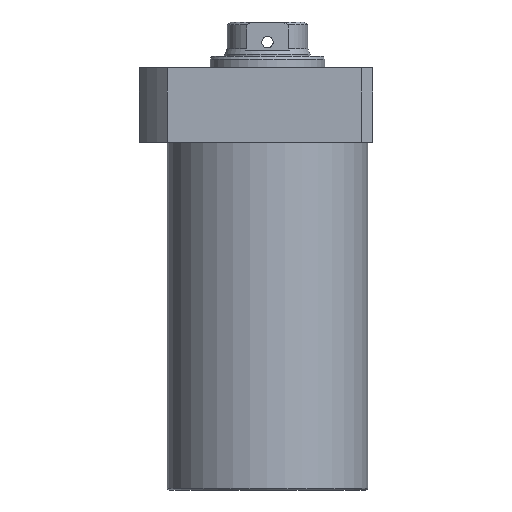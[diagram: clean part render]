
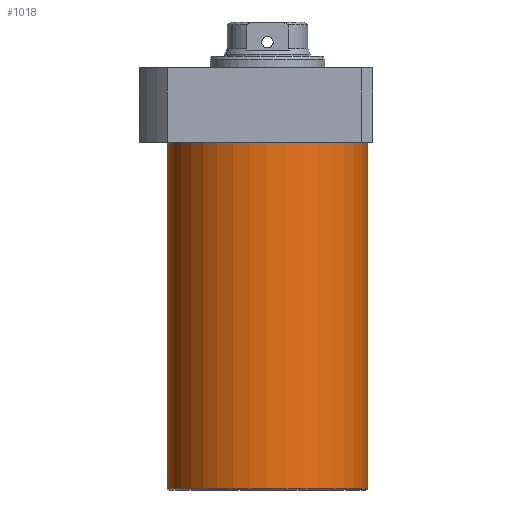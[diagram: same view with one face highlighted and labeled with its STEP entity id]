
A CAD part, front view. The second image highlights one B-rep face of the part: STEP entity #1018.
In plain terms, the highlighted cylindrical face has radius 52.5 mm (diameter 105 mm), a partial arc.
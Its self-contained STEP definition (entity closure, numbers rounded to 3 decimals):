
#114 = EDGE_CURVE ( 'NONE', #193, #2214, #825, .T. ) ;
#163 = AXIS2_PLACEMENT_3D ( 'NONE', #1118, #1467, #1641 ) ;
#193 = VERTEX_POINT ( 'NONE', #1724 ) ;
#231 = DIRECTION ( 'NONE',  ( 0., 0., 1. ) ) ;
#236 = EDGE_CURVE ( 'NONE', #2174, #1166, #323, .T. ) ;
#323 = CIRCLE ( 'NONE', #649, 52.5 ) ;
#378 = DIRECTION ( 'NONE',  ( 1., 0., 0. ) ) ;
#459 = ORIENTED_EDGE ( 'NONE', *, *, #236, .T. ) ;
#484 = ORIENTED_EDGE ( 'NONE', *, *, #114, .T. ) ;
#541 = DIRECTION ( 'NONE',  ( 0., 0., -1. ) ) ;
#649 = AXIS2_PLACEMENT_3D ( 'NONE', #1574, #1404, #721 ) ;
#721 = DIRECTION ( 'NONE',  ( -1., 0., 0. ) ) ;
#748 = VECTOR ( 'NONE', #231, 1000. ) ;
#825 = CIRCLE ( 'NONE', #1321, 52.5 ) ;
#838 = CARTESIAN_POINT ( 'NONE',  ( 52.5, 0., -201.5 ) ) ;
#895 = CARTESIAN_POINT ( 'NONE',  ( -52.5, 0., -201.5 ) ) ;
#940 = LINE ( 'NONE', #895, #748 ) ;
#1018 = ADVANCED_FACE ( 'NONE', ( #1239 ), #1075, .T. ) ;
#1075 = CYLINDRICAL_SURFACE ( 'NONE', #163, 52.5 ) ;
#1118 = CARTESIAN_POINT ( 'NONE',  ( 0., 0., -201.5 ) ) ;
#1166 = VERTEX_POINT ( 'NONE', #1885 ) ;
#1213 = CARTESIAN_POINT ( 'NONE',  ( 0., 0., -19.5 ) ) ;
#1239 = FACE_OUTER_BOUND ( 'NONE', #1968, .T. ) ;
#1309 = EDGE_CURVE ( 'NONE', #2174, #2214, #940, .T. ) ;
#1321 = AXIS2_PLACEMENT_3D ( 'NONE', #1213, #541, #378 ) ;
#1383 = CARTESIAN_POINT ( 'NONE',  ( -52.5, 0., -19.5 ) ) ;
#1404 = DIRECTION ( 'NONE',  ( 0., 0., 1. ) ) ;
#1430 = LINE ( 'NONE', #838, #1651 ) ;
#1467 = DIRECTION ( 'NONE',  ( 0., 0., 1. ) ) ;
#1574 = CARTESIAN_POINT ( 'NONE',  ( 0., 0., -200.5 ) ) ;
#1576 = EDGE_CURVE ( 'NONE', #1166, #193, #1430, .T. ) ;
#1623 = ORIENTED_EDGE ( 'NONE', *, *, #1309, .F. ) ;
#1641 = DIRECTION ( 'NONE',  ( 1., 0., 0. ) ) ;
#1651 = VECTOR ( 'NONE', #2034, 1000. ) ;
#1671 = CARTESIAN_POINT ( 'NONE',  ( -52.5, 0., -200.5 ) ) ;
#1724 = CARTESIAN_POINT ( 'NONE',  ( 52.5, 0., -19.5 ) ) ;
#1885 = CARTESIAN_POINT ( 'NONE',  ( 52.5, 0., -200.5 ) ) ;
#1968 = EDGE_LOOP ( 'NONE', ( #1623, #459, #2081, #484 ) ) ;
#2034 = DIRECTION ( 'NONE',  ( 0., 0., 1. ) ) ;
#2081 = ORIENTED_EDGE ( 'NONE', *, *, #1576, .T. ) ;
#2174 = VERTEX_POINT ( 'NONE', #1671 ) ;
#2214 = VERTEX_POINT ( 'NONE', #1383 ) ;
